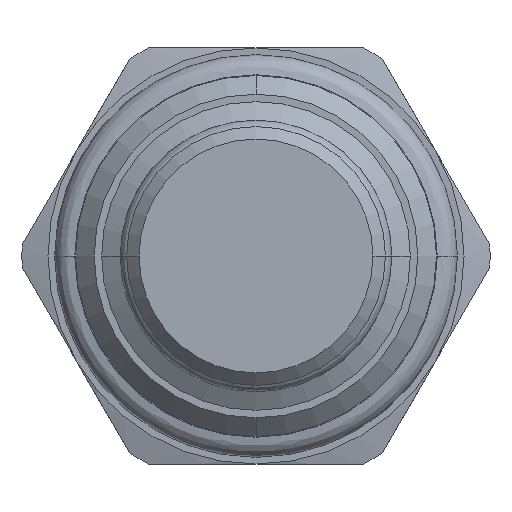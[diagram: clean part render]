
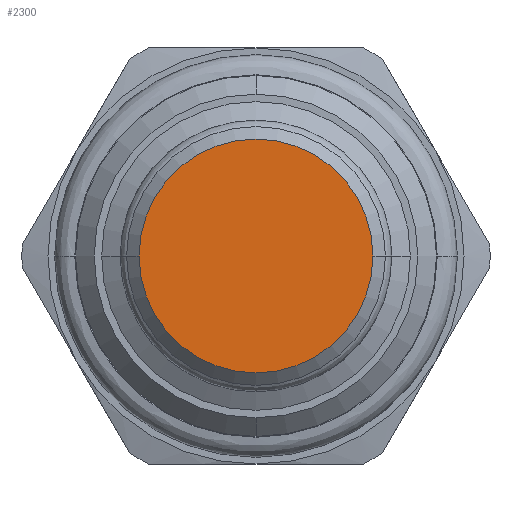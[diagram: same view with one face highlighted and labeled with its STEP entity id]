
A CAD part, front view. The second image highlights one B-rep face of the part: STEP entity #2300.
In plain terms, the highlighted planar face has unit normal (0, -1, 0).
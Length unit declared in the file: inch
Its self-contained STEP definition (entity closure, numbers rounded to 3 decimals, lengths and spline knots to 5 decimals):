
#925=CARTESIAN_POINT('',(0.,-1.253,0.));
#926=DIRECTION('',(0.,1.,0.));
#927=DIRECTION('',(1.,0.,0.));
#928=AXIS2_PLACEMENT_3D('',#925,#926,#927);
#943=CARTESIAN_POINT('',(0.,-1.253,0.));
#944=DIRECTION('',(0.,1.,0.));
#945=DIRECTION('',(-1.,0.,0.));
#946=AXIS2_PLACEMENT_3D('',#943,#944,#945);
#987=CARTESIAN_POINT('',(-0.281,-1.253,0.));
#988=CARTESIAN_POINT('',(0.281,-1.253,0.));
#989=VERTEX_POINT('',#987);
#990=VERTEX_POINT('',#988);
#2290=CARTESIAN_POINT('',(0.,-1.253,0.));
#2291=DIRECTION('',(0.,-1.,0.));
#2292=DIRECTION('',(-1.,0.,0.));
#2293=AXIS2_PLACEMENT_3D('',#2290,#2291,#2292);
#2294=PLANE('',#2293);
#2295=ORIENTED_EDGE('',*,*,#2280,.T.);
#2297=ORIENTED_EDGE('',*,*,#2296,.T.);
#2298=EDGE_LOOP('',(#2295,#2297));
#2299=FACE_OUTER_BOUND('',#2298,.F.);
#2300=ADVANCED_FACE('',(#2299),#2294,.T.);
#929=CIRCLE('',#928,0.281);
#947=CIRCLE('',#946,0.281);
#2280=EDGE_CURVE('',#990,#989,#929,.T.);
#2296=EDGE_CURVE('',#989,#990,#947,.T.);
